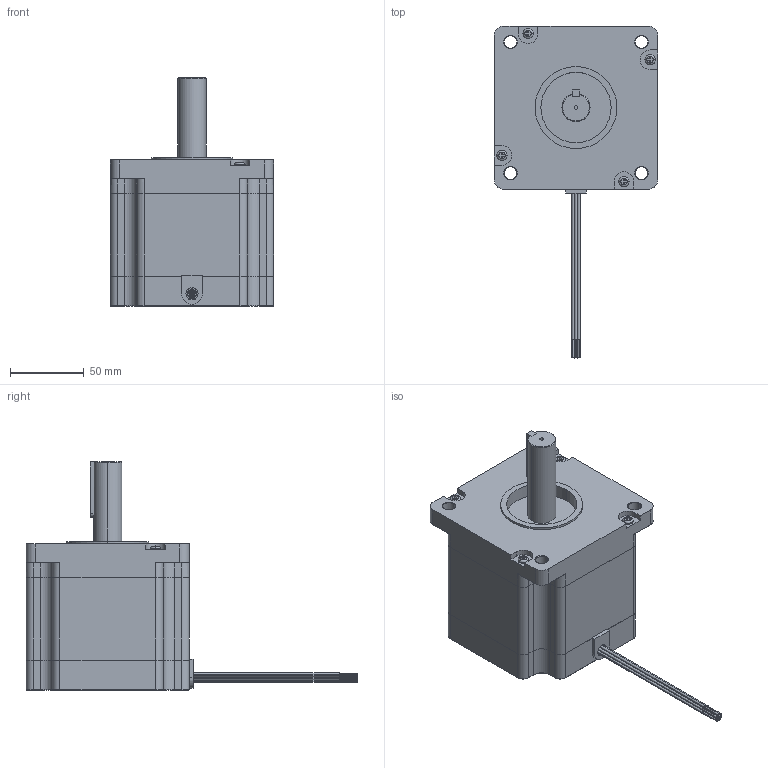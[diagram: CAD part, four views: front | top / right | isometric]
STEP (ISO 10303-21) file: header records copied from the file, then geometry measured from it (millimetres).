
FILE_DESCRIPTION (( 'STEP AP214' ), '1' );
FILE_NAME ('42Y002S-LW8.STEP', '2010-06-11T15:37:50', ( 'Tim Raines' ), ( 'Anaheim Automation' ), 'SwSTEP 2.0', 'SolidWorks 2010', '' );
FILE_SCHEMA (( 'AUTOMOTIVE_DESIGN' ));
Length unit declared in the file: inch
Products named in the file (1): 42Y002S-LW8
Bounding box: 110.62 x 224.92 x 154.69 mm (x, y, z)
Volume: 1100025.7 mm3; surface area: 78565 mm2
Topology: 1 solids, 1 shells, 360 faces, 905 edges, 573 vertices
Faces by surface type: plane 178, cylinder 121, cone 53, torus 8
Entity records: 15592 total; most frequent: CARTESIAN_POINT 2145, DIRECTION 1858, ORIENTED_EDGE 1794, EDGE_CURVE 897, AXIS2_PLACEMENT_3D 670, VERTEX_POINT 573, VECTOR 518, LINE 518
